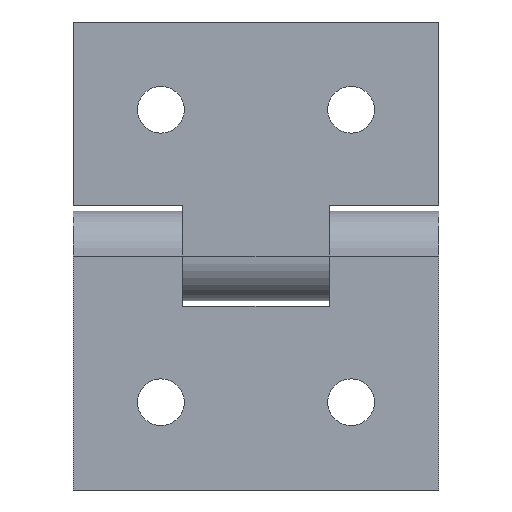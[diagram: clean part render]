
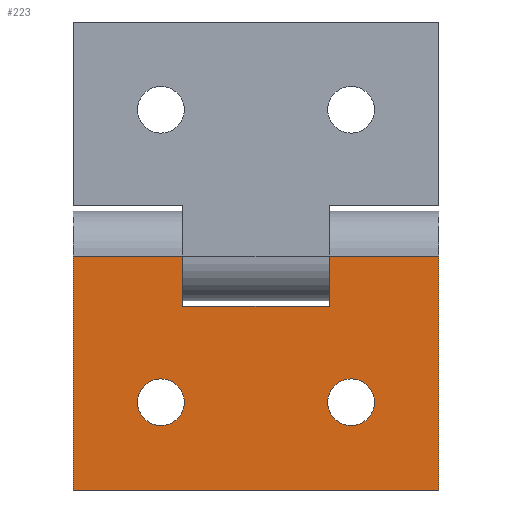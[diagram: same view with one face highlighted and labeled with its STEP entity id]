
A CAD part, front view. The second image highlights one B-rep face of the part: STEP entity #223.
In plain terms, the highlighted planar face has unit normal (0, -1, 0).
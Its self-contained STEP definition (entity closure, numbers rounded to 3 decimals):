
#15 = DIRECTION ( 'NONE',  ( 0., 1., 0. ) ) ;
#21 = EDGE_CURVE ( 'NONE', #612, #973, #1015, .T. ) ;
#22 = ORIENTED_EDGE ( 'NONE', *, *, #399, .T. ) ;
#24 = LINE ( 'NONE', #646, #189 ) ;
#34 = EDGE_CURVE ( 'NONE', #1250, #475, #544, .T. ) ;
#62 = CIRCLE ( 'NONE', #916, 1.6 ) ;
#63 = VERTEX_POINT ( 'NONE', #1800 ) ;
#105 = ORIENTED_EDGE ( 'NONE', *, *, #477, .T. ) ;
#116 = DIRECTION ( 'NONE',  ( 0., 0., 1. ) ) ;
#136 = ORIENTED_EDGE ( 'NONE', *, *, #1030, .T. ) ;
#162 = VERTEX_POINT ( 'NONE', #1655 ) ;
#189 = VECTOR ( 'NONE', #1269, 1000. ) ;
#201 = DIRECTION ( 'NONE',  ( -1., 0., 0. ) ) ;
#213 = CARTESIAN_POINT ( 'NONE',  ( 12.5, 0., -16. ) ) ;
#223 = ADVANCED_FACE ( 'NONE', ( #1037, #911, #1691 ), #1347, .F. ) ;
#229 = VERTEX_POINT ( 'NONE', #1203 ) ;
#273 = CARTESIAN_POINT ( 'NONE',  ( 6.5, 0., -10. ) ) ;
#275 = CARTESIAN_POINT ( 'NONE',  ( 12.5, 0., 0. ) ) ;
#308 = ORIENTED_EDGE ( 'NONE', *, *, #1909, .T. ) ;
#314 = VERTEX_POINT ( 'NONE', #799 ) ;
#346 = DIRECTION ( 'NONE',  ( 0., 0., 1. ) ) ;
#365 = CARTESIAN_POINT ( 'NONE',  ( -5., 0., 0. ) ) ;
#369 = CARTESIAN_POINT ( 'NONE',  ( -6.5, 0., -11.6 ) ) ;
#389 = VECTOR ( 'NONE', #1291, 1000. ) ;
#399 = EDGE_CURVE ( 'NONE', #314, #1538, #1924, .T. ) ;
#452 = EDGE_CURVE ( 'NONE', #1784, #63, #24, .T. ) ;
#475 = VERTEX_POINT ( 'NONE', #1442 ) ;
#477 = EDGE_CURVE ( 'NONE', #1538, #314, #62, .T. ) ;
#512 = DIRECTION ( 'NONE',  ( -1., 0., 0. ) ) ;
#529 = VECTOR ( 'NONE', #567, 1000. ) ;
#530 = ORIENTED_EDGE ( 'NONE', *, *, #1174, .F. ) ;
#544 = LINE ( 'NONE', #1133, #389 ) ;
#557 = CARTESIAN_POINT ( 'NONE',  ( 5., 0., 0. ) ) ;
#565 = VECTOR ( 'NONE', #1114, 1000. ) ;
#567 = DIRECTION ( 'NONE',  ( 0., 0., 1. ) ) ;
#574 = DIRECTION ( 'NONE',  ( 0., 1., 0. ) ) ;
#590 = EDGE_CURVE ( 'NONE', #1784, #1250, #982, .T. ) ;
#612 = VERTEX_POINT ( 'NONE', #365 ) ;
#631 = VERTEX_POINT ( 'NONE', #1615 ) ;
#646 = CARTESIAN_POINT ( 'NONE',  ( 12.5, 0., 0. ) ) ;
#690 = AXIS2_PLACEMENT_3D ( 'NONE', #273, #1993, #903 ) ;
#698 = CARTESIAN_POINT ( 'NONE',  ( 12.5, 0., 0. ) ) ;
#732 = CARTESIAN_POINT ( 'NONE',  ( 12.5, 0., 0. ) ) ;
#774 = VERTEX_POINT ( 'NONE', #1984 ) ;
#799 = CARTESIAN_POINT ( 'NONE',  ( -6.5, 0., -8.4 ) ) ;
#800 = CARTESIAN_POINT ( 'NONE',  ( -12.5, 0., 0. ) ) ;
#839 = ORIENTED_EDGE ( 'NONE', *, *, #21, .T. ) ;
#841 = DIRECTION ( 'NONE',  ( -1., 0., 0. ) ) ;
#903 = DIRECTION ( 'NONE',  ( 0., 0., 1. ) ) ;
#911 = FACE_BOUND ( 'NONE', #1024, .T. ) ;
#916 = AXIS2_PLACEMENT_3D ( 'NONE', #1590, #1463, #1948 ) ;
#973 = VERTEX_POINT ( 'NONE', #1562 ) ;
#982 = LINE ( 'NONE', #1603, #1725 ) ;
#985 = AXIS2_PLACEMENT_3D ( 'NONE', #1436, #1744, #346 ) ;
#999 = ORIENTED_EDGE ( 'NONE', *, *, #452, .F. ) ;
#1015 = LINE ( 'NONE', #698, #1294 ) ;
#1024 = EDGE_LOOP ( 'NONE', ( #136, #2011 ) ) ;
#1030 = EDGE_CURVE ( 'NONE', #631, #774, #1600, .T. ) ;
#1033 = EDGE_CURVE ( 'NONE', #475, #162, #1883, .T. ) ;
#1037 = FACE_BOUND ( 'NONE', #1352, .T. ) ;
#1052 = AXIS2_PLACEMENT_3D ( 'NONE', #1248, #15, #1873 ) ;
#1087 = EDGE_LOOP ( 'NONE', ( #1926, #839, #308, #530, #999, #1943, #1661, #1815 ) ) ;
#1091 = LINE ( 'NONE', #800, #565 ) ;
#1114 = DIRECTION ( 'NONE',  ( 0., 0., -1. ) ) ;
#1125 = LINE ( 'NONE', #213, #1961 ) ;
#1133 = CARTESIAN_POINT ( 'NONE',  ( 5., 0., 3.05 ) ) ;
#1174 = EDGE_CURVE ( 'NONE', #63, #229, #1125, .T. ) ;
#1203 = CARTESIAN_POINT ( 'NONE',  ( -12.5, 0., -16. ) ) ;
#1248 = CARTESIAN_POINT ( 'NONE',  ( -6.5, 0., -10. ) ) ;
#1250 = VERTEX_POINT ( 'NONE', #557 ) ;
#1266 = EDGE_CURVE ( 'NONE', #162, #612, #1801, .T. ) ;
#1269 = DIRECTION ( 'NONE',  ( 0., 0., -1. ) ) ;
#1291 = DIRECTION ( 'NONE',  ( 0., 0., -1. ) ) ;
#1294 = VECTOR ( 'NONE', #201, 1000. ) ;
#1302 = CARTESIAN_POINT ( 'NONE',  ( -5., 0., -3.45 ) ) ;
#1347 = PLANE ( 'NONE',  #1989 ) ;
#1352 = EDGE_LOOP ( 'NONE', ( #22, #105 ) ) ;
#1361 = EDGE_CURVE ( 'NONE', #774, #631, #1465, .T. ) ;
#1436 = CARTESIAN_POINT ( 'NONE',  ( 6.5, 0., -10. ) ) ;
#1442 = CARTESIAN_POINT ( 'NONE',  ( 5., 0., -3.45 ) ) ;
#1455 = DIRECTION ( 'NONE',  ( -1., 0., 0. ) ) ;
#1463 = DIRECTION ( 'NONE',  ( 0., 1., 0. ) ) ;
#1465 = CIRCLE ( 'NONE', #690, 1.6 ) ;
#1538 = VERTEX_POINT ( 'NONE', #369 ) ;
#1562 = CARTESIAN_POINT ( 'NONE',  ( -12.5, 0., 0. ) ) ;
#1590 = CARTESIAN_POINT ( 'NONE',  ( -6.5, 0., -10. ) ) ;
#1600 = CIRCLE ( 'NONE', #985, 1.6 ) ;
#1603 = CARTESIAN_POINT ( 'NONE',  ( 12.5, 0., 0. ) ) ;
#1615 = CARTESIAN_POINT ( 'NONE',  ( 6.5, 0., -8.4 ) ) ;
#1636 = CARTESIAN_POINT ( 'NONE',  ( -5., 0., 3.05 ) ) ;
#1655 = CARTESIAN_POINT ( 'NONE',  ( -5., 0., -3.45 ) ) ;
#1661 = ORIENTED_EDGE ( 'NONE', *, *, #34, .T. ) ;
#1691 = FACE_OUTER_BOUND ( 'NONE', #1087, .T. ) ;
#1725 = VECTOR ( 'NONE', #841, 1000. ) ;
#1744 = DIRECTION ( 'NONE',  ( 0., 1., 0. ) ) ;
#1784 = VERTEX_POINT ( 'NONE', #275 ) ;
#1800 = CARTESIAN_POINT ( 'NONE',  ( 12.5, 0., -16. ) ) ;
#1801 = LINE ( 'NONE', #1636, #529 ) ;
#1815 = ORIENTED_EDGE ( 'NONE', *, *, #1033, .T. ) ;
#1830 = VECTOR ( 'NONE', #512, 1000. ) ;
#1873 = DIRECTION ( 'NONE',  ( 0., 0., 1. ) ) ;
#1883 = LINE ( 'NONE', #1302, #1830 ) ;
#1909 = EDGE_CURVE ( 'NONE', #973, #229, #1091, .T. ) ;
#1924 = CIRCLE ( 'NONE', #1052, 1.6 ) ;
#1926 = ORIENTED_EDGE ( 'NONE', *, *, #1266, .T. ) ;
#1943 = ORIENTED_EDGE ( 'NONE', *, *, #590, .T. ) ;
#1948 = DIRECTION ( 'NONE',  ( 0., 0., 1. ) ) ;
#1961 = VECTOR ( 'NONE', #1455, 1000. ) ;
#1984 = CARTESIAN_POINT ( 'NONE',  ( 6.5, 0., -11.6 ) ) ;
#1989 = AXIS2_PLACEMENT_3D ( 'NONE', #732, #574, #116 ) ;
#1993 = DIRECTION ( 'NONE',  ( 0., 1., 0. ) ) ;
#2011 = ORIENTED_EDGE ( 'NONE', *, *, #1361, .T. ) ;
